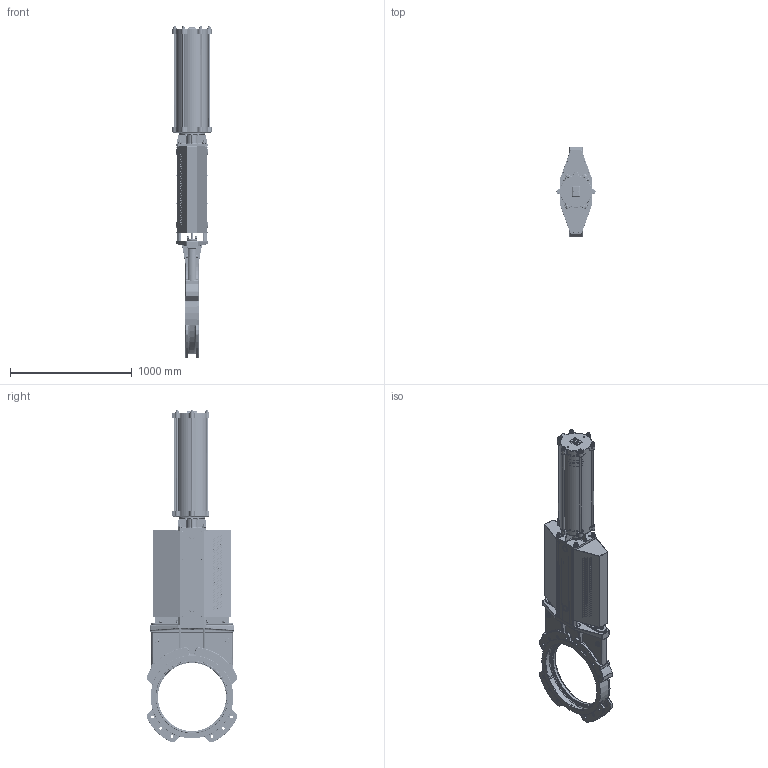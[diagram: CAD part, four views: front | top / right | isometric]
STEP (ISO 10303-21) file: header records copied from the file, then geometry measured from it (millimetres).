
FILE_DESCRIPTION(/* description */ (''),/* implementation_level */ '2;1');
FILE_NAME(/* name */ 'F:\Emir\3D-block special\MV VALVE\PNEUMATIC ACTUATOR\MV-DN600-PN10-FRSC250-630.stp',/* time_stamp */ '2018-05-25T15:04:13+02:00',/* author */ ('emimus'),/* organization */ (''),/* preprocessor_version */ 'ST-DEVELOPER v17',/* originating_system */ 'Autodesk Inventor 2018',/* authorisation */ '');
FILE_SCHEMA (('CONFIG_CONTROL_DESIGN'));
Products named in the file (1): MV-DN600-PN10-FRSC250-630
Bounding box: 322 x 740 x 2730 mm (x, y, z)
Volume: 53894515.8 mm3; surface area: 9795788 mm2
Topology: 1 solids, 1 shells, 4396 faces, 11456 edges, 7181 vertices
Faces by surface type: plane 1717, cylinder 1366, cone 418, torus 397, bspline 288, sphere 210
Full cylindrical faces by diameter (mm): 3.6 x16, 4.2 x16, 4.5 x12, 4.917 x7, 5 x2, 6.647 x4, 7.5 x4, 8.376 x11, 9.5 x2, 10.106 x2, 12 x16, 12.5 x6, 13 x8, 14 x7, 15 x9, 16 x16, 17 x10, 17.294 x4, 17.5 x6, 18 x5, 18.2 x4, 18.5 x2, 18.631 x8, 20 x12, 21 x8, 21.939 x6, 23.752 x28, 24 x12, 26 x8, 27.9 x6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
Entity records: 152007 total; most frequent: CARTESIAN_POINT 43550, DIRECTION 23264, ORIENTED_EDGE 22746, EDGE_CURVE 11373, AXIS2_PLACEMENT_3D 9414, VERTEX_POINT 7181, EDGE_LOOP 5132, CIRCLE 4971
